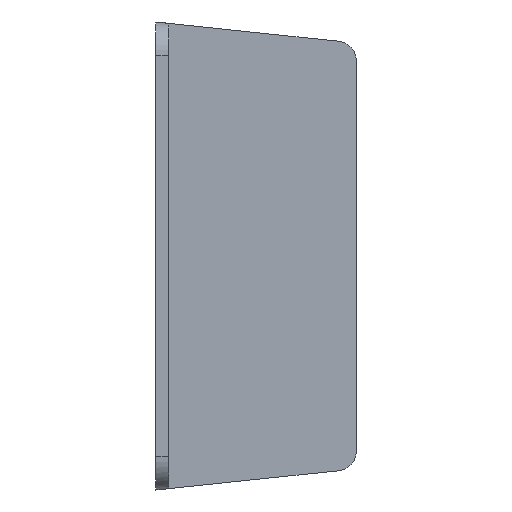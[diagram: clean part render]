
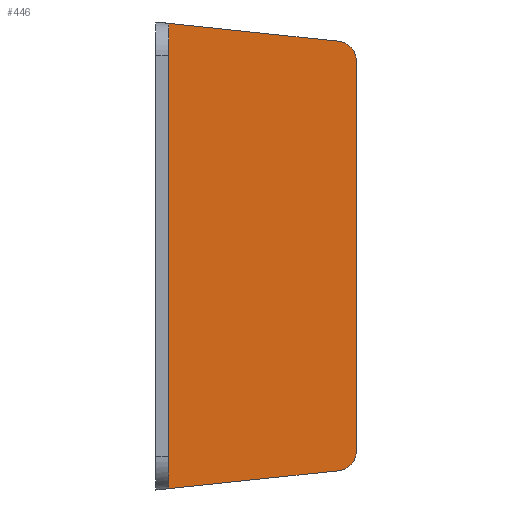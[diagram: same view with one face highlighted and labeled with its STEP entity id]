
A CAD part, left-side view. The second image highlights one B-rep face of the part: STEP entity #446.
In plain terms, the highlighted planar face has unit normal (-1, 0, 0).
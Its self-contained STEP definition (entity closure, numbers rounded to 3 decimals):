
#2 = DIRECTION ( 'NONE',  ( 0., 0., 1. ) ) ;
#43 = VECTOR ( 'NONE', #350, 1000. ) ;
#56 = CARTESIAN_POINT ( 'NONE',  ( -56.75, -27.7, 28.688 ) ) ;
#168 = DIRECTION ( 'NONE',  ( 0., 0., 1. ) ) ;
#187 = ORIENTED_EDGE ( 'NONE', *, *, #1917, .F. ) ;
#195 = ORIENTED_EDGE ( 'NONE', *, *, #1965, .T. ) ;
#324 = CARTESIAN_POINT ( 'NONE',  ( -56.75, -27.7, -34.5 ) ) ;
#341 = VERTEX_POINT ( 'NONE', #56 ) ;
#343 = EDGE_LOOP ( 'NONE', ( #187, #1739, #195, #517, #934, #354 ) ) ;
#350 = DIRECTION ( 'NONE',  ( 0., 0., 1. ) ) ;
#354 = ORIENTED_EDGE ( 'NONE', *, *, #1706, .F. ) ;
#408 = AXIS2_PLACEMENT_3D ( 'NONE', #1919, #952, #2 ) ;
#420 = CARTESIAN_POINT ( 'NONE',  ( -56.75, -27.7, -34.5 ) ) ;
#446 = ADVANCED_FACE ( 'NONE', ( #1958 ), #640, .T. ) ;
#466 = DIRECTION ( 'NONE',  ( 0., 0., 1. ) ) ;
#494 = DIRECTION ( 'NONE',  ( 0., -0.995, -0.105 ) ) ;
#517 = ORIENTED_EDGE ( 'NONE', *, *, #1968, .T. ) ;
#518 = CARTESIAN_POINT ( 'NONE',  ( -56.75, -27.7, -28.688 ) ) ;
#560 = DIRECTION ( 'NONE',  ( 0., 0., 1. ) ) ;
#566 = VERTEX_POINT ( 'NONE', #518 ) ;
#573 = CARTESIAN_POINT ( 'NONE',  ( -56.75, 0., 34.3 ) ) ;
#596 = DIRECTION ( 'NONE',  ( 0., 0.995, -0.105 ) ) ;
#640 = PLANE ( 'NONE',  #1344 ) ;
#706 = VERTEX_POINT ( 'NONE', #1475 ) ;
#793 = VERTEX_POINT ( 'NONE', #573 ) ;
#805 = CARTESIAN_POINT ( 'NONE',  ( -56.75, -34.55, 30.669 ) ) ;
#861 = VECTOR ( 'NONE', #494, 1000. ) ;
#873 = LINE ( 'NONE', #805, #861 ) ;
#882 = VECTOR ( 'NONE', #466, 1000. ) ;
#896 = CIRCLE ( 'NONE', #408, 3. ) ;
#901 = LINE ( 'NONE', #324, #882 ) ;
#932 = CIRCLE ( 'NONE', #1952, 3. ) ;
#934 = ORIENTED_EDGE ( 'NONE', *, *, #1992, .F. ) ;
#950 = VECTOR ( 'NONE', #596, 1000. ) ;
#951 = VERTEX_POINT ( 'NONE', #1889 ) ;
#952 = DIRECTION ( 'NONE',  ( -1., 0., 0. ) ) ;
#957 = LINE ( 'NONE', #1603, #950 ) ;
#1136 = DIRECTION ( 'NONE',  ( -1., 0., 0. ) ) ;
#1159 = VERTEX_POINT ( 'NONE', #1488 ) ;
#1189 = LINE ( 'NONE', #1335, #43 ) ;
#1335 = CARTESIAN_POINT ( 'NONE',  ( -56.75, 0., -34.5 ) ) ;
#1344 = AXIS2_PLACEMENT_3D ( 'NONE', #420, #1559, #560 ) ;
#1475 = CARTESIAN_POINT ( 'NONE',  ( -56.75, -25.014, -31.671 ) ) ;
#1488 = CARTESIAN_POINT ( 'NONE',  ( -56.75, 0., -34.3 ) ) ;
#1559 = DIRECTION ( 'NONE',  ( -1., 0., 0. ) ) ;
#1603 = CARTESIAN_POINT ( 'NONE',  ( -56.75, -27.377, -31.423 ) ) ;
#1706 = EDGE_CURVE ( 'NONE', #1159, #793, #1189, .T. ) ;
#1739 = ORIENTED_EDGE ( 'NONE', *, *, #1954, .T. ) ;
#1889 = CARTESIAN_POINT ( 'NONE',  ( -56.75, -25.014, 31.671 ) ) ;
#1917 = EDGE_CURVE ( 'NONE', #706, #1159, #957, .T. ) ;
#1919 = CARTESIAN_POINT ( 'NONE',  ( -56.75, -24.7, 28.688 ) ) ;
#1952 = AXIS2_PLACEMENT_3D ( 'NONE', #2056, #1136, #168 ) ;
#1954 = EDGE_CURVE ( 'NONE', #706, #566, #932, .T. ) ;
#1958 = FACE_OUTER_BOUND ( 'NONE', #343, .T. ) ;
#1965 = EDGE_CURVE ( 'NONE', #566, #341, #901, .T. ) ;
#1968 = EDGE_CURVE ( 'NONE', #341, #951, #896, .T. ) ;
#1992 = EDGE_CURVE ( 'NONE', #793, #951, #873, .T. ) ;
#2056 = CARTESIAN_POINT ( 'NONE',  ( -56.75, -24.7, -28.688 ) ) ;
